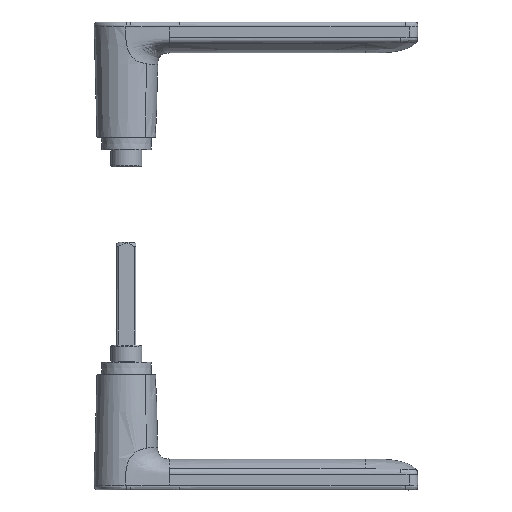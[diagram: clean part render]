
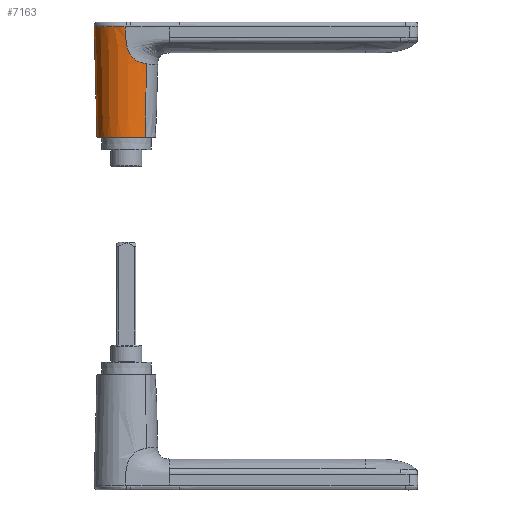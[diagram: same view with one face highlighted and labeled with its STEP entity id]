
A CAD part, top view. The second image highlights one B-rep face of the part: STEP entity #7163.
In plain terms, the highlighted conical face has half-angle 1.5 degrees and reference radius 12.974 mm.
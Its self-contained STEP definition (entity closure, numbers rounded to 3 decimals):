
#1036=CARTESIAN_POINT('',(-13.582,-46.401,
0.003));
#1128=DIRECTION('',(-0.026,-1.,0.));
#1129=VECTOR('',#1128,46.417);
#1130=CARTESIAN_POINT('',(-12.366,0.,
0.003));
#1131=LINE('',#1130,#1129);
#1132=CARTESIAN_POINT('',(0.,-46.401,
0.008));
#1133=DIRECTION('',(0.,-1.,0.));
#1134=DIRECTION('',(-1.,0.,0.));
#1135=AXIS2_PLACEMENT_3D('',#1132,#1133,#1134);
#1228=CARTESIAN_POINT('',(0.,0.,
0.008));
#1229=DIRECTION('',(0.,-1.,0.));
#1230=DIRECTION('',(-1.,0.,0.));
#1231=AXIS2_PLACEMENT_3D('',#1228,#1229,#1230);
#1248=DIRECTION('',(0.017,-1.,-0.02));
#1249=VECTOR('',#1248,30.837);
#1250=CARTESIAN_POINT('',(7.895,0.,
-9.51));
#1251=LINE('',#1250,#1249);
#1438=CARTESIAN_POINT('',(8.411,-30.827,
-10.132));
#1439=CARTESIAN_POINT('',(8.306,-30.846,
-10.219));
#1440=CARTESIAN_POINT('',(8.096,-30.886,
-10.389));
#1441=CARTESIAN_POINT('',(7.79,-30.955,
-10.622));
#1442=CARTESIAN_POINT('',(7.472,-31.035,
-10.85));
#1443=CARTESIAN_POINT('',(7.196,-31.107,
-11.038));
#1444=CARTESIAN_POINT('',(6.82,-31.211,
-11.278));
#1445=CARTESIAN_POINT('',(6.412,-31.329,
-11.518));
#1446=CARTESIAN_POINT('',(6.027,-31.448,
-11.727));
#1447=CARTESIAN_POINT('',(5.693,-31.557,
-11.896));
#1448=CARTESIAN_POINT('',(5.311,-31.692,
-12.075));
#1449=CARTESIAN_POINT('',(4.985,-31.823,
-12.217));
#1450=CARTESIAN_POINT('',(4.603,-31.999,
-12.37));
#1451=CARTESIAN_POINT('',(4.323,-32.149,
-12.474));
#1452=CARTESIAN_POINT('',(4.061,-32.306,
-12.566));
#1453=CARTESIAN_POINT('',(3.844,-32.451,
-12.638));
#1454=CARTESIAN_POINT('',(3.615,-32.619,
-12.71));
#1455=CARTESIAN_POINT('',(3.348,-32.829,
-12.789));
#1456=CARTESIAN_POINT('',(3.086,-33.05,
-12.86));
#1457=CARTESIAN_POINT('',(2.82,-33.286,
-12.928));
#1458=CARTESIAN_POINT('',(2.539,-33.558,
-12.993));
#1459=CARTESIAN_POINT('',(2.298,-33.815,
-13.044));
#1460=CARTESIAN_POINT('',(2.031,-34.129,
-13.097));
#1461=CARTESIAN_POINT('',(1.799,-34.437,
-13.139));
#1462=CARTESIAN_POINT('',(1.571,-34.779,
-13.177));
#1463=CARTESIAN_POINT('',(1.383,-35.097,
-13.206));
#1464=CARTESIAN_POINT('',(1.225,-35.388,
-13.229));
#1465=CARTESIAN_POINT('',(1.045,-35.753,
-13.254));
#1466=CARTESIAN_POINT('',(0.898,-36.081,
-13.274));
#1467=CARTESIAN_POINT('',(0.725,-36.499,
-13.295));
#1468=CARTESIAN_POINT('',(0.565,-36.942,
-13.314));
#1469=CARTESIAN_POINT('',(0.412,-37.424,
-13.333));
#1470=CARTESIAN_POINT('',(0.263,-37.956,
-13.35));
#1471=CARTESIAN_POINT('',(0.136,-38.484,
-13.366));
#1472=CARTESIAN_POINT('',(0.012,-39.074,
-13.382));
#1473=CARTESIAN_POINT('',(-0.072,-39.545,
-13.394));
#1474=CARTESIAN_POINT('',(-0.135,-39.934,
-13.404));
#1475=CARTESIAN_POINT('',(-0.196,-40.35,
-13.414));
#1476=CARTESIAN_POINT('',(-0.244,-40.71,
-13.423));
#1477=CARTESIAN_POINT('',(-0.281,-41.018,
-13.43));
#1478=CARTESIAN_POINT('',(-0.313,-41.301,
-13.437));
#1479=CARTESIAN_POINT('',(-0.342,-41.578,
-13.443));
#1480=CARTESIAN_POINT('',(-0.367,-41.84,
-13.449));
#1481=CARTESIAN_POINT('',(-0.394,-42.143,
-13.457));
#1482=CARTESIAN_POINT('',(-0.425,-42.541,
-13.466));
#1483=CARTESIAN_POINT('',(-0.45,-42.886,
-13.474));
#1484=CARTESIAN_POINT('',(-0.478,-43.313,
-13.485));
#1485=CARTESIAN_POINT('',(-0.506,-43.834,
-13.497));
#1486=CARTESIAN_POINT('',(-0.527,-44.267,
-13.508));
#1487=CARTESIAN_POINT('',(-0.548,-44.785,
-13.52));
#1488=CARTESIAN_POINT('',(-0.564,-45.292,
-13.533));
#1489=CARTESIAN_POINT('',(-0.578,-45.806,
-13.546));
#1490=CARTESIAN_POINT('',(-0.587,-46.197,
-13.556));
#1491=CARTESIAN_POINT('',(-0.591,-46.401,
-13.561));
#4260=VERTEX_POINT('',#1036);
#4261=CARTESIAN_POINT('',(-0.591,-46.401,
-13.561));
#4262=VERTEX_POINT('',#4261);
#4264=CARTESIAN_POINT('',(-12.366,0.,
0.003));
#4265=CARTESIAN_POINT('',(7.895,0.,
-9.51));
#4266=VERTEX_POINT('',#4264);
#4267=VERTEX_POINT('',#4265);
#4268=VERTEX_POINT('',#1438);
#7147=CARTESIAN_POINT('',(0.,-23.2,
0.008));
#7148=DIRECTION('',(0.,-1.,0.));
#7149=DIRECTION('',(-0.638,0.,0.77));
#7150=AXIS2_PLACEMENT_3D('',#7147,#7148,#7149);
#7151=CONICAL_SURFACE('',#7150,12.974,1.5);
#7153=ORIENTED_EDGE('',*,*,#7152,.F.);
#7155=ORIENTED_EDGE('',*,*,#7154,.T.);
#7156=ORIENTED_EDGE('',*,*,#7136,.T.);
#7158=ORIENTED_EDGE('',*,*,#7157,.F.);
#7160=ORIENTED_EDGE('',*,*,#7159,.F.);
#7161=EDGE_LOOP('',(#7153,#7155,#7156,#7158,#7160));
#7162=FACE_OUTER_BOUND('',#7161,.F.);
#7163=ADVANCED_FACE('',(#7162),#7151,.T.);
#1136=CIRCLE('',#1135,13.582);
#1232=CIRCLE('',#1231,12.366);
#1492=B_SPLINE_CURVE_WITH_KNOTS('',3,(#1438,#1439,#1440,#1441,#1442,#1443,#1444,
#1445,#1446,#1447,#1448,#1449,#1450,#1451,#1452,#1453,#1454,#1455,#1456,#1457,
#1458,#1459,#1460,#1461,#1462,#1463,#1464,#1465,#1466,#1467,#1468,#1469,#1470,
#1471,#1472,#1473,#1474,#1475,#1476,#1477,#1478,#1479,#1480,#1481,#1482,#1483,
#1484,#1485,#1486,#1487,#1488,#1489,#1490,#1491),.UNSPECIFIED.,.F.,.F.,(4,1,1,1,
1,1,1,1,1,1,1,1,1,1,1,1,1,1,1,1,1,1,1,1,1,1,1,1,1,1,1,1,1,1,1,1,1,1,1,1,1,1,1,1,
1,1,1,1,1,1,1,4),(0.,0.02,0.039,0.059,
0.078,0.098,0.118,0.137,
0.157,0.176,0.196,0.216,
0.235,0.255,0.275,0.294,
0.314,0.333,0.353,0.373,
0.392,0.412,0.431,0.451,
0.471,0.49,0.51,0.529,
0.549,0.569,0.588,0.608,
0.627,0.647,0.667,0.686,
0.706,0.725,0.745,0.765,
0.784,0.804,0.824,0.843,
0.863,0.882,0.902,0.922,
0.941,0.961,0.98,1.),.UNSPECIFIED.);
#7136=EDGE_CURVE('',#4260,#4262,#1136,.T.);
#7152=EDGE_CURVE('',#4266,#4267,#1232,.T.);
#7154=EDGE_CURVE('',#4266,#4260,#1131,.T.);
#7157=EDGE_CURVE('',#4268,#4262,#1492,.T.);
#7159=EDGE_CURVE('',#4267,#4268,#1251,.T.);
